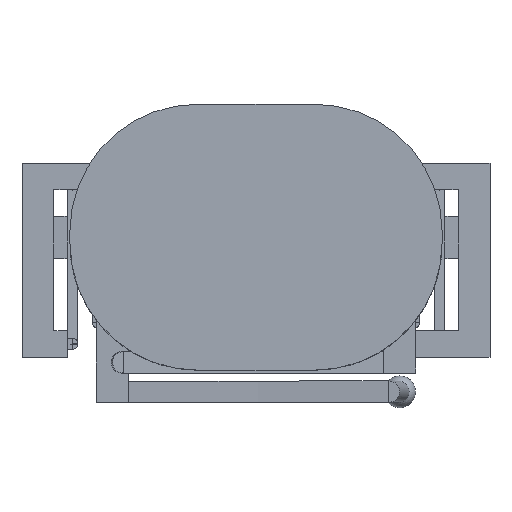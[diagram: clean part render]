
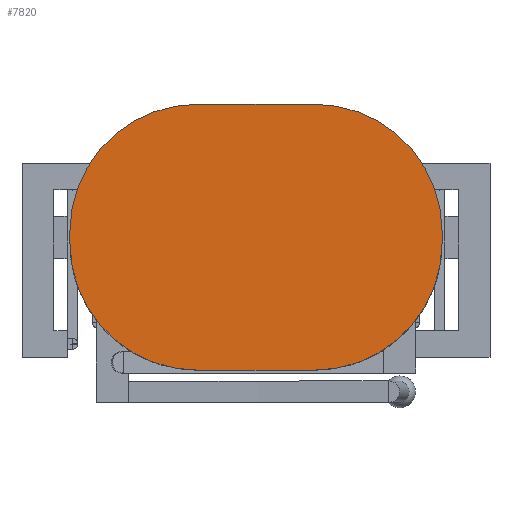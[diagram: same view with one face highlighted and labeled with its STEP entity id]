
A CAD part, top view. The second image highlights one B-rep face of the part: STEP entity #7820.
In plain terms, the highlighted planar face has unit normal (0, 0, 1).
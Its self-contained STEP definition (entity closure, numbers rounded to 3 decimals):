
#5254 = VERTEX_POINT('',#5255);
#5255 = CARTESIAN_POINT('',(15.,53.8,73.));
#5261 = EDGE_CURVE('',#5254,#5262,#5264,.T.);
#5262 = VERTEX_POINT('',#5263);
#5263 = CARTESIAN_POINT('',(19.8,49.,73.));
#5264 = CIRCLE('',#5265,4.8);
#5265 = AXIS2_PLACEMENT_3D('',#5266,#5267,#5268);
#5266 = CARTESIAN_POINT('',(19.8,53.8,73.));
#5267 = DIRECTION('',(0.,0.,1.));
#5268 = DIRECTION('',(-1.,0.,0.));
#5409 = EDGE_CURVE('',#5262,#5410,#5412,.T.);
#5410 = VERTEX_POINT('',#5411);
#5411 = CARTESIAN_POINT('',(24.2,49.,73.));
#5412 = LINE('',#5413,#5414);
#5413 = CARTESIAN_POINT('',(19.8,49.,73.));
#5414 = VECTOR('',#5415,1.);
#5415 = DIRECTION('',(1.,0.,0.));
#5501 = EDGE_CURVE('',#5410,#5502,#5504,.T.);
#5502 = VERTEX_POINT('',#5503);
#5503 = CARTESIAN_POINT('',(29.,53.8,73.));
#5504 = CIRCLE('',#5505,4.8);
#5505 = AXIS2_PLACEMENT_3D('',#5506,#5507,#5508);
#5506 = CARTESIAN_POINT('',(24.2,53.8,73.));
#5507 = DIRECTION('',(-0.,0.,1.));
#5508 = DIRECTION('',(0.,-1.,0.));
#5565 = VERTEX_POINT('',#5566);
#5566 = CARTESIAN_POINT('',(15.,54.2,73.));
#5572 = EDGE_CURVE('',#5565,#5254,#5573,.T.);
#5573 = LINE('',#5574,#5575);
#5574 = CARTESIAN_POINT('',(15.,54.2,73.));
#5575 = VECTOR('',#5576,1.);
#5576 = DIRECTION('',(0.,-1.,0.));
#5613 = VERTEX_POINT('',#5614);
#5614 = CARTESIAN_POINT('',(19.8,59.,73.));
#5620 = EDGE_CURVE('',#5613,#5565,#5621,.T.);
#5621 = CIRCLE('',#5622,4.8);
#5622 = AXIS2_PLACEMENT_3D('',#5623,#5624,#5625);
#5623 = CARTESIAN_POINT('',(19.8,54.2,73.));
#5624 = DIRECTION('',(0.,-0.,1.));
#5625 = DIRECTION('',(0.,1.,0.));
#5694 = VERTEX_POINT('',#5695);
#5695 = CARTESIAN_POINT('',(24.2,59.,73.));
#5701 = EDGE_CURVE('',#5694,#5613,#5702,.T.);
#5702 = LINE('',#5703,#5704);
#5703 = CARTESIAN_POINT('',(24.2,59.,73.));
#5704 = VECTOR('',#5705,1.);
#5705 = DIRECTION('',(-1.,0.,0.));
#5735 = VERTEX_POINT('',#5736);
#5736 = CARTESIAN_POINT('',(29.,54.2,73.));
#5742 = EDGE_CURVE('',#5735,#5694,#5743,.T.);
#5743 = CIRCLE('',#5744,4.8);
#5744 = AXIS2_PLACEMENT_3D('',#5745,#5746,#5747);
#5745 = CARTESIAN_POINT('',(24.2,54.2,73.));
#5746 = DIRECTION('',(0.,0.,1.));
#5747 = DIRECTION('',(1.,0.,0.));
#5760 = EDGE_CURVE('',#5502,#5735,#5761,.T.);
#5761 = LINE('',#5762,#5763);
#5762 = CARTESIAN_POINT('',(29.,53.8,73.));
#5763 = VECTOR('',#5764,1.);
#5764 = DIRECTION('',(0.,1.,0.));
#7820 = ADVANCED_FACE('',(#7821),#7831,.T.);
#7821 = FACE_BOUND('',#7822,.T.);
#7822 = EDGE_LOOP('',(#7823,#7824,#7825,#7826,#7827,#7828,#7829,#7830));
#7823 = ORIENTED_EDGE('',*,*,#5409,.T.);
#7824 = ORIENTED_EDGE('',*,*,#5501,.T.);
#7825 = ORIENTED_EDGE('',*,*,#5760,.T.);
#7826 = ORIENTED_EDGE('',*,*,#5742,.T.);
#7827 = ORIENTED_EDGE('',*,*,#5701,.T.);
#7828 = ORIENTED_EDGE('',*,*,#5620,.T.);
#7829 = ORIENTED_EDGE('',*,*,#5572,.T.);
#7830 = ORIENTED_EDGE('',*,*,#5261,.T.);
#7831 = PLANE('',#7832);
#7832 = AXIS2_PLACEMENT_3D('',#7833,#7834,#7835);
#7833 = CARTESIAN_POINT('',(22.,54.,73.));
#7834 = DIRECTION('',(0.,0.,1.));
#7835 = DIRECTION('',(1.,0.,0.));
